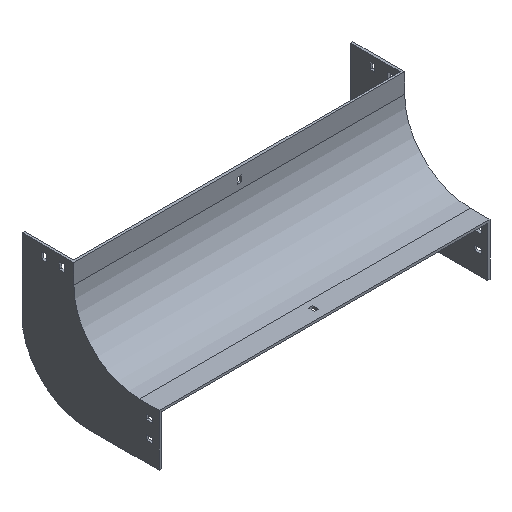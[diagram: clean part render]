
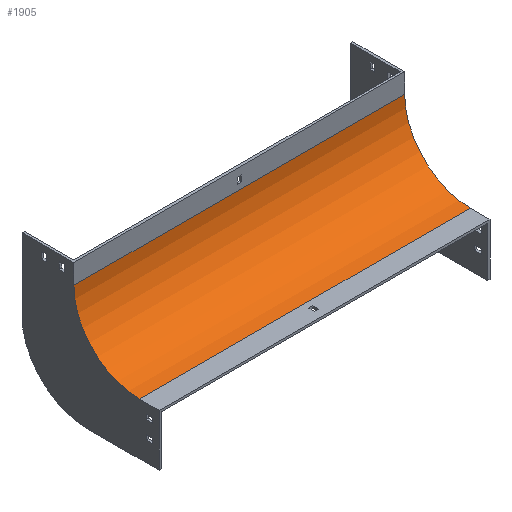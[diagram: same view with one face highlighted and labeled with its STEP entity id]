
A CAD part, isometric view. The second image highlights one B-rep face of the part: STEP entity #1905.
In plain terms, the highlighted cylindrical face has radius 100 mm (diameter 200 mm), a partial arc.
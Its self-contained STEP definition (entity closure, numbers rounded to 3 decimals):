
#35 = DIRECTION ( 'NONE',  ( -1., 0., 0. ) ) ;
#59 = VERTEX_POINT ( 'NONE', #1001 ) ;
#102 = EDGE_CURVE ( 'NONE', #378, #564, #1594, .T. ) ;
#111 = CARTESIAN_POINT ( 'NONE',  ( 252., 0., -30. ) ) ;
#137 = DIRECTION ( 'NONE',  ( -1., 0., 0. ) ) ;
#178 = CARTESIAN_POINT ( 'NONE',  ( -252., -100., -30. ) ) ;
#213 = DIRECTION ( 'NONE',  ( 0., 0., 1. ) ) ;
#225 = EDGE_LOOP ( 'NONE', ( #748, #1849, #1331, #1495 ) ) ;
#229 = AXIS2_PLACEMENT_3D ( 'NONE', #178, #1558, #213 ) ;
#347 = CARTESIAN_POINT ( 'NONE',  ( 252., -100., -30. ) ) ;
#378 = VERTEX_POINT ( 'NONE', #805 ) ;
#492 = FACE_OUTER_BOUND ( 'NONE', #225, .T. ) ;
#564 = VERTEX_POINT ( 'NONE', #1306 ) ;
#637 = DIRECTION ( 'NONE',  ( -1., 0., 0. ) ) ;
#748 = ORIENTED_EDGE ( 'NONE', *, *, #1936, .T. ) ;
#751 = CARTESIAN_POINT ( 'NONE',  ( 252., -100., -130. ) ) ;
#805 = CARTESIAN_POINT ( 'NONE',  ( 252., 0., -30. ) ) ;
#940 = CYLINDRICAL_SURFACE ( 'NONE', #1734, 100. ) ;
#996 = VECTOR ( 'NONE', #1920, 1000. ) ;
#1001 = CARTESIAN_POINT ( 'NONE',  ( -252., -100., -130. ) ) ;
#1095 = EDGE_CURVE ( 'NONE', #378, #1745, #1471, .T. ) ;
#1226 = DIRECTION ( 'NONE',  ( 0., 0., 1. ) ) ;
#1306 = CARTESIAN_POINT ( 'NONE',  ( -252., 0., -30. ) ) ;
#1331 = ORIENTED_EDGE ( 'NONE', *, *, #1095, .F. ) ;
#1332 = CARTESIAN_POINT ( 'NONE',  ( 252., -100., -130. ) ) ;
#1357 = LINE ( 'NONE', #1332, #1704 ) ;
#1471 = CIRCLE ( 'NONE', #1887, 100. ) ;
#1495 = ORIENTED_EDGE ( 'NONE', *, *, #102, .T. ) ;
#1558 = DIRECTION ( 'NONE',  ( -1., 0., 0. ) ) ;
#1594 = LINE ( 'NONE', #111, #996 ) ;
#1632 = CARTESIAN_POINT ( 'NONE',  ( 252., -100., -30. ) ) ;
#1704 = VECTOR ( 'NONE', #137, 1000. ) ;
#1734 = AXIS2_PLACEMENT_3D ( 'NONE', #347, #35, #1845 ) ;
#1745 = VERTEX_POINT ( 'NONE', #751 ) ;
#1813 = EDGE_CURVE ( 'NONE', #1745, #59, #1357, .T. ) ;
#1845 = DIRECTION ( 'NONE',  ( 0., 0., 1. ) ) ;
#1849 = ORIENTED_EDGE ( 'NONE', *, *, #1813, .F. ) ;
#1886 = CIRCLE ( 'NONE', #229, 100. ) ;
#1887 = AXIS2_PLACEMENT_3D ( 'NONE', #1632, #637, #1226 ) ;
#1905 = ADVANCED_FACE ( 'NONE', ( #492 ), #940, .F. ) ;
#1920 = DIRECTION ( 'NONE',  ( -1., 0., 0. ) ) ;
#1936 = EDGE_CURVE ( 'NONE', #564, #59, #1886, .T. ) ;
